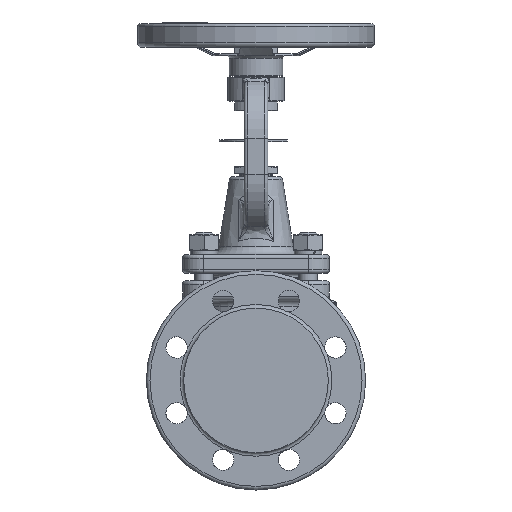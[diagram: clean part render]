
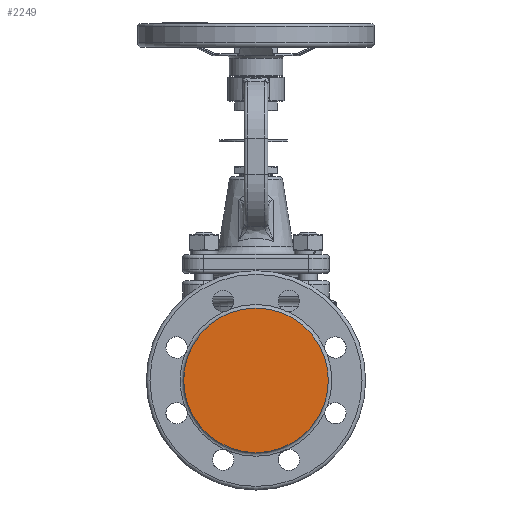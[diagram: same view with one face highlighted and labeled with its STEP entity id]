
A CAD part, front view. The second image highlights one B-rep face of the part: STEP entity #2249.
In plain terms, the highlighted planar face has unit normal (0, -1, 0).
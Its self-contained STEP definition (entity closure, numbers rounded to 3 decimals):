
#185=PLANE('',#17528);
#2249=ADVANCED_FACE('',(#3602),#185,.F.);
#3602=FACE_OUTER_BOUND('',#4567,.T.);
#4567=EDGE_LOOP('',(#6981));
#5905=CIRCLE('',#17527,61.);
#6981=ORIENTED_EDGE('',*,*,#13588,.F.);
#11983=VERTEX_POINT('',#39078);
#13588=EDGE_CURVE('',#11983,#11983,#5905,.T.);
#17527=AXIS2_PLACEMENT_3D('',#39077,#19455,#19456);
#17528=AXIS2_PLACEMENT_3D('',#39079,#19457,#19458);
#19455=DIRECTION('',(0.,1.,0.));
#19456=DIRECTION('',(-1.,0.,0.));
#19457=DIRECTION('',(0.,1.,0.));
#19458=DIRECTION('',(-1.,0.,0.));
#39077=CARTESIAN_POINT('',(0.049,-143.278,-0.341));
#39078=CARTESIAN_POINT('',(-60.951,-143.278,-0.341));
#39079=CARTESIAN_POINT('',(0.049,-143.278,-0.341));
